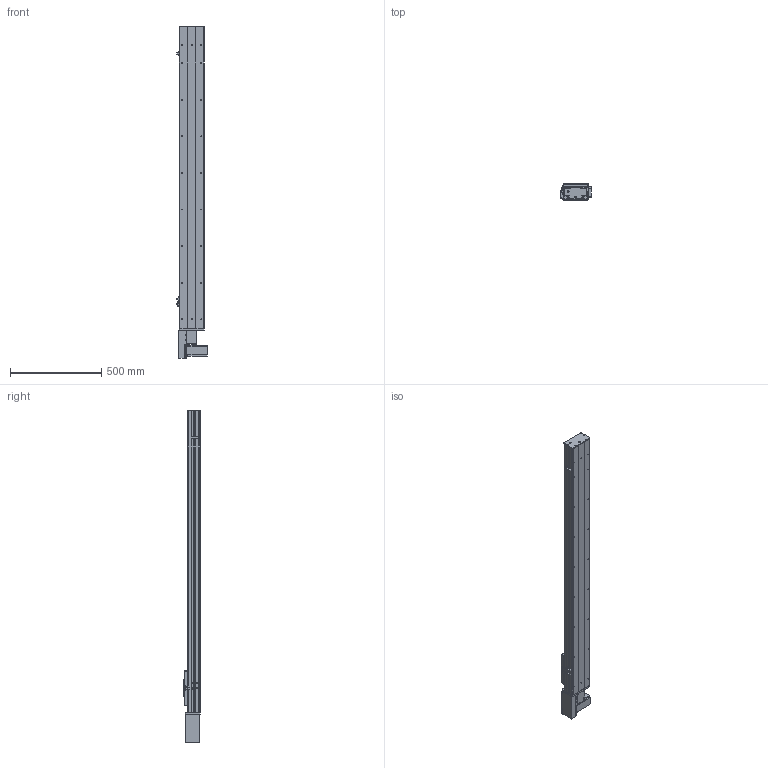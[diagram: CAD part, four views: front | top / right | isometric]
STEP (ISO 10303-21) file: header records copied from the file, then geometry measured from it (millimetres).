
FILE_DESCRIPTION (( 'STEP AP203' ), '1' );
FILE_NAME ('Y135CB-D90-S1350-BR-P400W.STEP', '2020-02-18T02:36:08', ( '微软用户' ), ( '微软中国' ), 'SwSTEP 2.0', 'SolidWorks 2017', '' );
FILE_SCHEMA (( 'CONFIG_CONTROL_DESIGN' ));
Length unit declared in the file: millimetre
Products named in the file (18): Y135CB-D90-S1350-BR-P400W; 5CB --掛极耜裔啣-; 135CB---遴掛极.-; C-詩湍揤踡え-陔; 35CB---喘謫眊楊擘啣; 135CB--詩湍-CE; Y10B-耜蚾蟀諉啣----; Y100-135俋离換覜ん--; Y俋欶BR----; Y135C-陔俋离換覜結え-; 0B-埴倛裔啣; 5C--俋欶; 0B-源倛裔啣; C-雄赽釱--; 0B-萇儂楊擘啣; Y10B--々湍喘謫眊--666; san松下电机400不带刹车----; Y135CB-耜裔
Assembly tree (21 placements, depth 2):
  Y135CB-D90-S1350-BR-P400W
    Y135CB-耜裔
    135CB---遴掛极.-
    35CB---喘謫眊楊擘啣
    Y10B-耜蚾蟀諉啣----
    Y俋欶BR----
    0B-埴倛裔啣
    0B-源倛裔啣
    0B-萇儂楊擘啣
    san松下电机400不带刹车----
    5CB --掛极耜裔啣-  x2
    C-詩湍揤踡え-陔  x2
    135CB--詩湍-CE
    Y100-135俋离換覜ん--  x3
    Y135C-陔俋离換覜結え-
    5C--俋欶
    C-雄赽釱--
    Y10B--々湍喘謫眊--666
Bounding box: 167.5 x 91 x 1814.5 mm (x, y, z)
Volume: 5296164.3 mm3; surface area: 2082234.2 mm2
Topology: 21 solids, 21 shells, 953 faces, 2563 edges, 1698 vertices
Faces by surface type: cylinder 479, plane 458, cone 16
Entity records: 29745 total; most frequent: DIRECTION 4939, CARTESIAN_POINT 4900, ORIENTED_EDGE 4602, EDGE_CURVE 2301, AXIS2_PLACEMENT_3D 1801, VERTEX_POINT 1526, LINE 1337, VECTOR 1337
